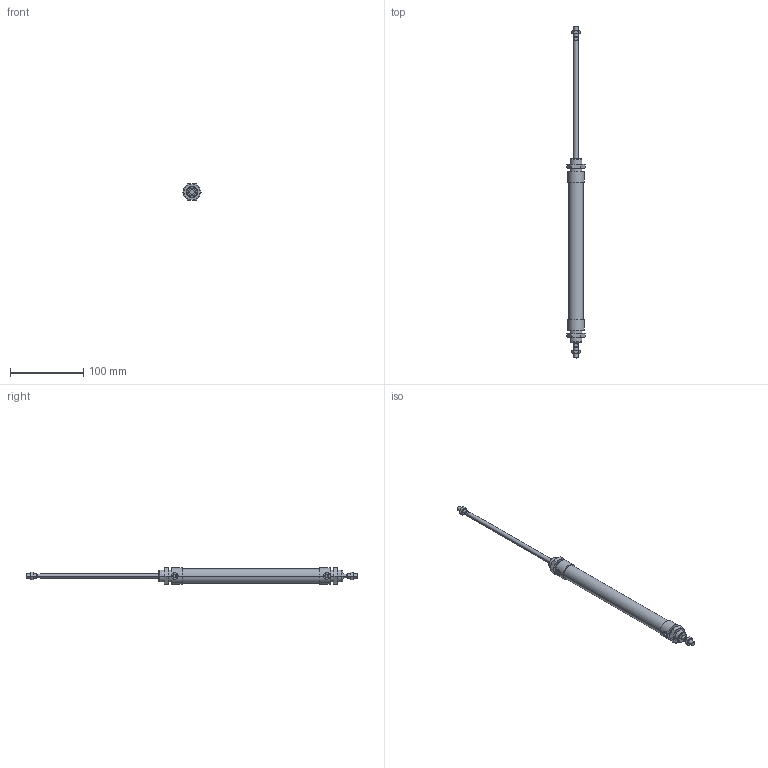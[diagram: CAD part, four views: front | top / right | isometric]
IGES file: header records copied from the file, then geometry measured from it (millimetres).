
Global section: file name: No Iges File Name specified; native system: AutoDesk Inventor R10; preprocessor: AutoDesk Inventor Iges Exporter R10; author: No Author specified; organization: No Organization specified; date: 20060105.143407; units: millimetre
Bounding box: 25.4 x 452 x 23 mm (x, y, z)
Volume: 86634.2 mm3; surface area: 32901 mm2
Topology: 6 solids, 6 shells, 184 faces, 394 edges, 230 vertices
Faces by surface type: cone 68, plane 58, cylinder 24, bspline 20, revolution 14
